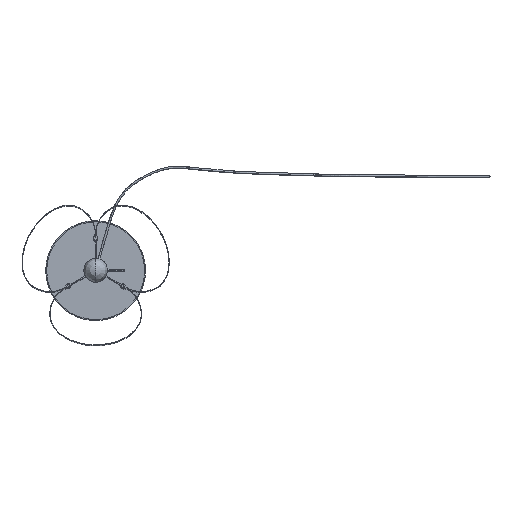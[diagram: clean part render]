
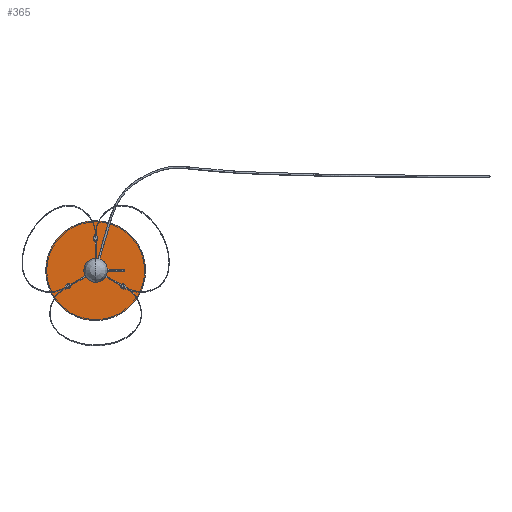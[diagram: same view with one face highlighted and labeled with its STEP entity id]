
A CAD part, top view. The second image highlights one B-rep face of the part: STEP entity #365.
In plain terms, the highlighted planar face has unit normal (0, 0, 1).
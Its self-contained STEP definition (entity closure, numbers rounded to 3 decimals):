
#365=ADVANCED_FACE('',(#668),#4831,.T.);
#668=FACE_OUTER_BOUND('',#982,.T.);
#982=EDGE_LOOP('',(#2408,#2409));
#2408=ORIENTED_EDGE('',*,*,#3145,.T.);
#2409=ORIENTED_EDGE('',*,*,#3148,.T.);
#3145=EDGE_CURVE('',#4522,#4524,#3548,.T.);
#3148=EDGE_CURVE('',#4524,#4522,#3550,.T.);
#3548=TRIMMED_CURVE($,#3722,(#15531),(#15532),.T.,.CARTESIAN.);
#3550=TRIMMED_CURVE($,#3724,(#15539),(#15540),.T.,.CARTESIAN.);
#3722=CIRCLE('',#5336,100.);
#3724=CIRCLE('',#5338,100.);
#4522=VERTEX_POINT('',#15506);
#4524=VERTEX_POINT('',#15508);
#4831=PLANE('',#5329);
#5329=AXIS2_PLACEMENT_3D('',#15499,#5922,$);
#5336=AXIS2_PLACEMENT_3D($,#15530,#5934,#5935);
#5338=AXIS2_PLACEMENT_3D($,#15538,#5938,#5939);
#5922=DIRECTION('',(0.,0.,1.));
#5934=DIRECTION('',(0.,0.,1.));
#5935=DIRECTION('',(0.866,0.5,0.));
#5938=DIRECTION('',(0.,0.,1.));
#5939=DIRECTION('',(-0.866,-0.5,0.));
#15499=CARTESIAN_POINT('',(-1338.188,-197.637,-339.804));
#15506=CARTESIAN_POINT('',(-1126.585,-22.637,-339.804));
#15508=CARTESIAN_POINT('',(-1299.79,-122.637,-339.804));
#15530=CARTESIAN_POINT('',(-1213.188,-72.637,-339.804));
#15531=CARTESIAN_POINT('',(-1126.585,-22.637,-339.804));
#15532=CARTESIAN_POINT('',(-1299.79,-122.637,-339.804));
#15538=CARTESIAN_POINT('',(-1213.188,-72.637,-339.804));
#15539=CARTESIAN_POINT('',(-1299.79,-122.637,-339.804));
#15540=CARTESIAN_POINT('',(-1126.585,-22.637,-339.804));
